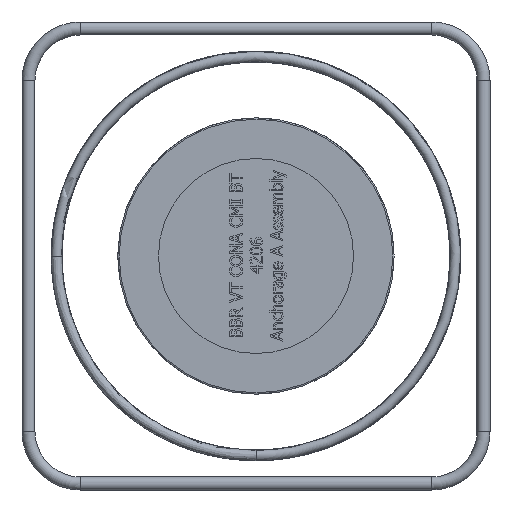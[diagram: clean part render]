
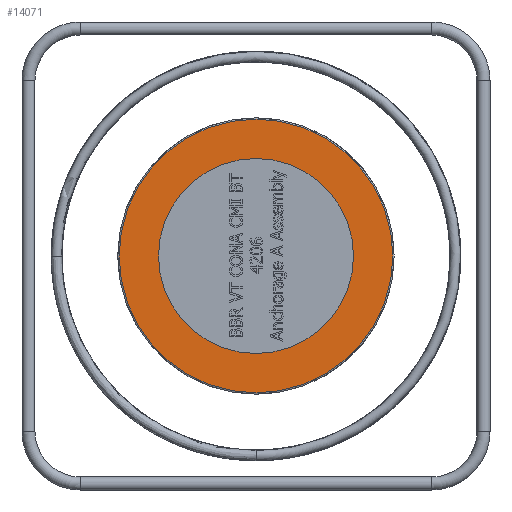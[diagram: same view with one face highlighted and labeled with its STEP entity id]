
A CAD part, left-side view. The second image highlights one B-rep face of the part: STEP entity #14071.
In plain terms, the highlighted planar face has unit normal (-1, 0, 0).
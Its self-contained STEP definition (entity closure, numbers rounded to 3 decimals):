
#2807=PLANE('',#14663);
#3632=FACE_BOUND('',#5284,.T.);
#4369=FACE_OUTER_BOUND('',#5283,.T.);
#5283=EDGE_LOOP('',(#12196));
#5284=EDGE_LOOP('',(#12197));
#5525=CIRCLE('',#14659,150.);
#5528=CIRCLE('',#14664,210.5);
#6787=VERTEX_POINT('',#29683);
#6792=VERTEX_POINT('',#29709);
#8614=EDGE_CURVE('',#6787,#6787,#5525,.T.);
#8619=EDGE_CURVE('',#6792,#6792,#5528,.T.);
#12196=ORIENTED_EDGE('',*,*,#8619,.T.);
#12197=ORIENTED_EDGE('',*,*,#8614,.T.);
#14071=ADVANCED_FACE('',(#4369,#3632),#2807,.T.);
#14659=AXIS2_PLACEMENT_3D('',#29684,#16859,#16860);
#14663=AXIS2_PLACEMENT_3D('',#29708,#16867,#16868);
#14664=AXIS2_PLACEMENT_3D('',#29710,#16869,#16870);
#16859=DIRECTION('center_axis',(1.,0.,0.));
#16860=DIRECTION('ref_axis',(0.,1.,0.));
#16867=DIRECTION('center_axis',(-1.,0.,0.));
#16868=DIRECTION('ref_axis',(0.,0.,1.));
#16869=DIRECTION('center_axis',(-1.,0.,0.));
#16870=DIRECTION('ref_axis',(0.,-1.,0.));
#29683=CARTESIAN_POINT('',(-290.,150.,0.));
#29684=CARTESIAN_POINT('Origin',(-290.,0.,0.));
#29708=CARTESIAN_POINT('Origin',(-290.,-166.,0.));
#29709=CARTESIAN_POINT('',(-290.,-210.5,0.));
#29710=CARTESIAN_POINT('Origin',(-290.,0.,0.));
